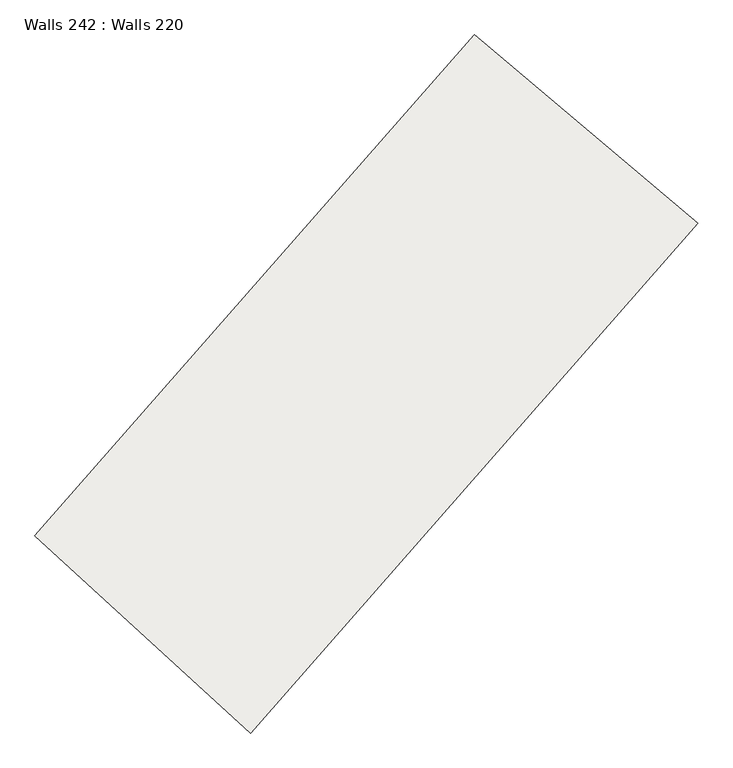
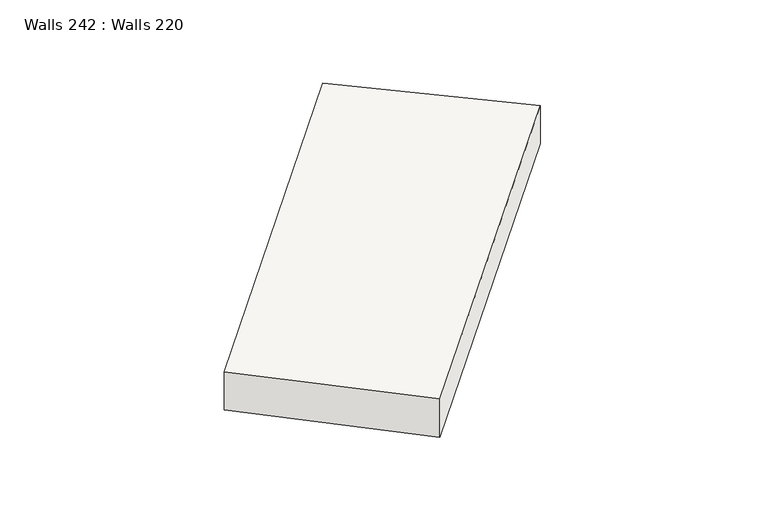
"""IFC4 building model written with IfcOpenShell, lengths in millimetres: slab geometry, Walls 242 : Walls 220."""

from ifc_helpers import new_model, si_unit, frame, origin, place, context, project, spatial, source, transform, mapped, element, save
from ifc_brep_helpers import plane_surface, spline_curve, spline_surface, advanced_brep


def walls_242_walls_220_34fb87d1(model_context):
    return source(origin(), model_context, "Body", "AdvancedBrep", [
        advanced_brep(
        [(382440.7706238, 252919.1143501, 644689.0), (385244.276948, 250353.8946149, 644689.0), (385244.276948, 250353.8946149, 645489.0), (382440.7706238, 252919.1143501, 645489.0), (388160.7941454, 259430.5061126, 644801.0), (388160.7941454, 259430.5061126, 645601.0), (391065.8866461, 256980.9270543, 645601.0), (391065.8866461, 256980.9270543, 644801.0)],
        [
            (0, 1),
            (1, 2),
            (2, 3),
            (3, 0),
            (4, 5),
            (5, 6),
            (6, 7),
            (7, 4),
            (5, 3, spline_curve(3, [(388160.7941454, 259430.5061126, 645601.0), (386298.34205958, 257221.720252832, 645563.666666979), (384391.146069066, 255050.662700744, 645526.333333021), (382440.7706238, 252919.1143501, 645489.0)], [4, 4], [0.0, 28.691591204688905])),
            (2, 6, spline_curve(3, [(385244.276948, 250353.8946149, 645489.0), (387229.290569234, 252523.298726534, 645526.333333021), (389170.35788017, 254732.913713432, 645563.666666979), (391065.8866461, 256980.9270543, 645601.0)], [4, 4], [0.0, 28.691591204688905])),
            (4, 0, spline_curve(3, [(388160.7941454, 259430.5061126, 644801.0), (386298.342060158, 257221.720252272, 644763.666666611), (384391.146068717, 255050.66270042, 644726.333333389), (382440.7706238, 252919.1143501, 644689.0)], [4, 4], [0.0, 28.439097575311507])),
            (7, 1, spline_curve(3, [(391065.8866461, 256980.9270543, 644801.0), (389170.35788017, 254732.913713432, 644763.666666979), (387229.290569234, 252523.298726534, 644726.333333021), (385244.276948, 250353.8946149, 644689.0)], [4, 4], [0.0, 28.691591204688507])),
        ],
        [
            plane_surface(frame((383842.5237859, 251636.5044825, 645089.0), z_axis=(-0.6750578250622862, -0.7377648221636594, 0.0), x_axis=(0.0, 0.0, 1.0))),
            plane_surface(frame((389613.3403957, 258205.7165834, 645201.0), z_axis=(0.6446260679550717, 0.764498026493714, 0.0), x_axis=(0.764498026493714, -0.6446260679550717, 0.0))),
            spline_surface(3, 3, [[(391065.8866461, 256980.9270543, 645601.0), (389170.357880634, 254732.913713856, 645563.666666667), (387229.290569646, 252523.298726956, 645526.333333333), (385244.276948, 250353.8946149, 645489.0)], [(390097.522479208, 257797.453407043, 645601.0), (388213.01927366, 255562.515893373, 645563.666666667), (386283.24240275, 253365.753384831, 645526.333333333), (384309.774839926, 251208.967859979, 645489.0)], [(389129.158312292, 258613.979759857, 645601.0), (387255.680666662, 256392.118072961, 645563.666666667), (385337.194235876, 254208.208042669, 645526.333333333), (383375.272731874, 252064.041105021, 645489.0)], [(388160.7941454, 259430.5061126, 645601.0), (386298.342059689, 257221.720252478, 645563.666666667), (384391.146068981, 255050.662700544, 645526.333333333), (382440.7706238, 252919.1143501, 645489.0)]], [4, 4], [4, 4], [0.0, 12.467191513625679], [0.0, 28.691591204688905]),
            spline_surface(3, 3, [[(388160.7941454, 259430.5061126, 645601.0), (386298.342059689, 257221.720252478, 645563.666666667), (384391.146068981, 255050.662700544, 645526.333333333), (382440.7706238, 252919.1143501, 645489.0)], [(388160.7941454, 259430.5061126, 645334.333333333), (386298.342059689, 257221.720252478, 645297.0), (384391.146068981, 255050.662700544, 645259.666666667), (382440.7706238, 252919.1143501, 645222.333333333)], [(388160.7941454, 259430.5061126, 645067.666666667), (386298.342059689, 257221.720252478, 645030.333333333), (384391.146068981, 255050.662700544, 644993.0), (382440.7706238, 252919.1143501, 644955.666666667)], [(388160.7941454, 259430.5061126, 644801.0), (386298.342059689, 257221.720252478, 644763.666666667), (384391.146068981, 255050.662700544, 644726.333333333), (382440.7706238, 252919.1143501, 644689.0)]], [4, 4], [4, 4], [0.0, 2.6246719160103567], [0.0, 28.439097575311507]),
            spline_surface(3, 3, [[(388160.7941454, 259430.5061126, 644801.0), (386298.342059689, 257221.720252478, 644763.666666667), (384391.146068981, 255050.662700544, 644726.333333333), (382440.7706238, 252919.1143501, 644689.0)], [(389129.158312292, 258613.979759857, 644801.0), (387255.680666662, 256392.118072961, 644763.666666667), (385337.194235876, 254208.208042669, 644726.333333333), (383375.272731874, 252064.041105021, 644689.0)], [(390097.522479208, 257797.453407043, 644801.0), (388213.01927366, 255562.515893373, 644763.666666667), (386283.24240275, 253365.753384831, 644726.333333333), (384309.774839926, 251208.967859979, 644689.0)], [(391065.8866461, 256980.9270543, 644801.0), (389170.357880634, 254732.913713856, 644763.666666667), (387229.290569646, 252523.298726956, 644726.333333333), (385244.276948, 250353.8946149, 644689.0)]], [4, 4], [4, 4], [0.0, 12.467191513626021], [0.0, 28.691591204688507]),
            spline_surface(3, 3, [[(391065.8866461, 256980.9270543, 644801.0), (389170.357880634, 254732.913713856, 644763.666666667), (387229.290569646, 252523.298726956, 644726.333333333), (385244.276948, 250353.8946149, 644689.0)], [(391065.8866461, 256980.9270543, 645067.666666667), (389170.357880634, 254732.913713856, 645030.333333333), (387229.290569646, 252523.298726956, 644993.0), (385244.276948, 250353.8946149, 644955.666666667)], [(391065.8866461, 256980.9270543, 645334.333333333), (389170.357880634, 254732.913713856, 645297.0), (387229.290569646, 252523.298726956, 645259.666666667), (385244.276948, 250353.8946149, 645222.333333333)], [(391065.8866461, 256980.9270543, 645601.0), (389170.357880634, 254732.913713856, 645563.666666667), (387229.290569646, 252523.298726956, 645526.333333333), (385244.276948, 250353.8946149, 645489.0)]], [4, 4], [4, 4], [0.0, 2.6246719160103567], [0.0, 28.944085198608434]),
        ],
        [
            (0, [[1, 2, 3, 4]]),
            (1, [[5, 6, 7, 8]]),
            (2, [[-6, 9, -3, 10]]),
            (3, [[-5, 11, -4, -9]]),
            (4, [[-8, 12, -1, -11]]),
            (5, [[-7, -10, -2, -12]]),
        ],
    ),
    ])


if __name__ == "__main__":
    model = new_model("IFC4")
    model_context = context("Model", 3, world=origin())
    ifc_project = project(units=[si_unit("LENGTHUNIT", "METRE", prefix="MILLI")], contexts=[model_context])
    site = spatial("IfcSite", under=ifc_project)
    building = spatial("IfcBuilding", under=site)
    placement = place(None, origin())
    walls_242_walls_220_shape = walls_242_walls_220_34fb87d1(model_context)
    element("IfcSlab", 1, ObjectType="Walls 242 : Walls 220", at=placement, inside=building, context=model_context, shape_type="MappedRepresentation", body=[
        mapped(walls_242_walls_220_shape, transform((0.0, 0.0, 0.0), x_axis=(1.0, 0.0, 0.0), y_axis=(0.0, 1.0, 0.0), z_axis=(0.0, 0.0, 1.0))),
    ])
    save(model, "model.ifc")
